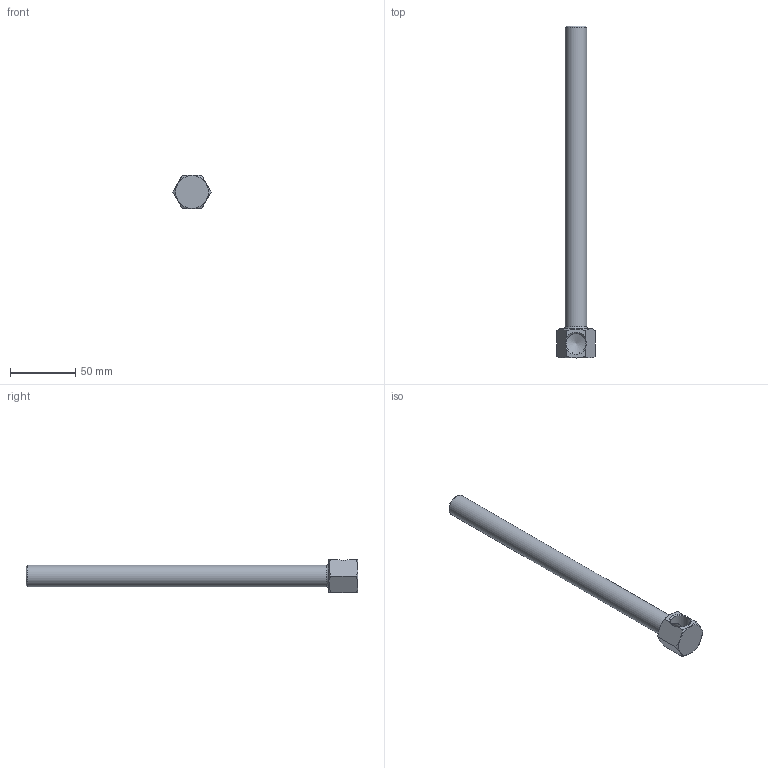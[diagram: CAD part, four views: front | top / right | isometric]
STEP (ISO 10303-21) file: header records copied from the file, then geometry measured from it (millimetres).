
FILE_DESCRIPTION(/* description */ (''),/* implementation_level */ '2;1');
FILE_NAME(/* name */ 'C:/Users/drich/Desktop/38B-10 v1.step',/* time_stamp */ '2019-12-29T15:24:04-06:00',/* author */ (''),/* organization */ (''),/* preprocessor_version */ 'ST-DEVELOPER v18',/* originating_system */ 'Autodesk Translation Framework v8.12.0.6',/* authorisation */ '');
FILE_SCHEMA (('AUTOMOTIVE_DESIGN { 1 0 10303 214 3 1 1 }'));
Length unit declared in the file: inch
Products named in the file (1): 38B-10
Bounding box: 29.33 x 254 x 25.4 mm (x, y, z)
Volume: 32323.8 mm3; surface area: 24466.4 mm2
Topology: 1 solids, 1 shells, 20 faces, 53 edges, 35 vertices
Faces by surface type: plane 10, cone 6, cylinder 3, torus 1
Full cylindrical faces by diameter (mm): 11.887 x1, 15.173 x1, 16.537 x1
Entity records: 687 total; most frequent: CARTESIAN_POINT 184, ORIENTED_EDGE 104, DIRECTION 91, EDGE_CURVE 52, AXIS2_PLACEMENT_3D 37, VERTEX_POINT 35, EDGE_LOOP 23, FACE_OUTER_BOUND 20
